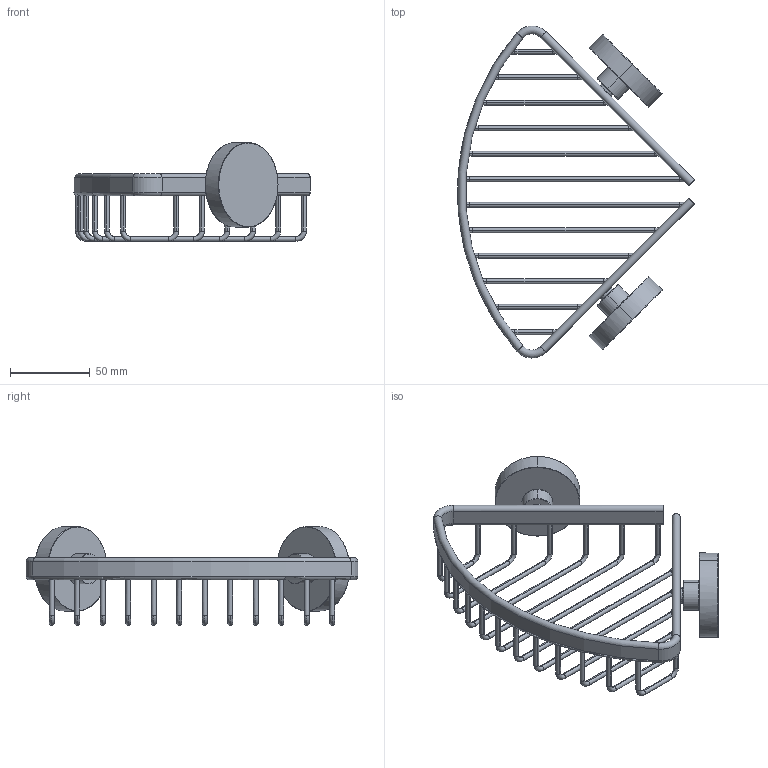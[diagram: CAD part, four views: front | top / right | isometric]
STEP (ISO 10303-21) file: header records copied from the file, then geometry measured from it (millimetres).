
FILE_DESCRIPTION(('THIS FILE CONTAINS SOME STEP INSTANCES'),'1');
FILE_NAME('HAR 020-light.stp','2015-10-27T15:25:32',('UNDEFINED'),('UNDEFINED'),'T-FLEX CAD STEP converter','T-FLEX CAD','');
FILE_SCHEMA(('CONFIG_CONTROL_DESIGN'));
Length unit declared in the file: metre
Products named in the file (1): har_020
Bounding box: 148.29 x 208.33 x 62 mm (x, y, z)
Volume: 103504.6 mm3; surface area: 46834.1 mm2
Topology: 1 solids, 1 shells, 200 faces, 489 edges, 295 vertices
Faces by surface type: cylinder 94, torus 54, cone 28, plane 18, bspline 6
Entity records: 10534 total; most frequent: CARTESIAN_POINT 6673, ORIENTED_EDGE 978, DIRECTION 606, EDGE_CURVE 489, VERTEX_POINT 295, AXIS2_PLACEMENT_3D 235, EDGE_LOOP 228, ADVANCED_FACE 200
